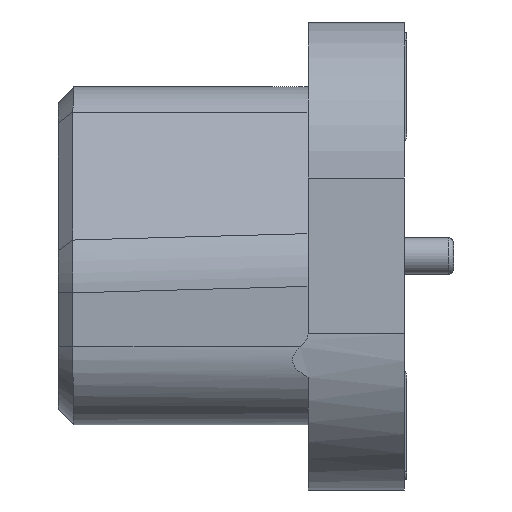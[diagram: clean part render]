
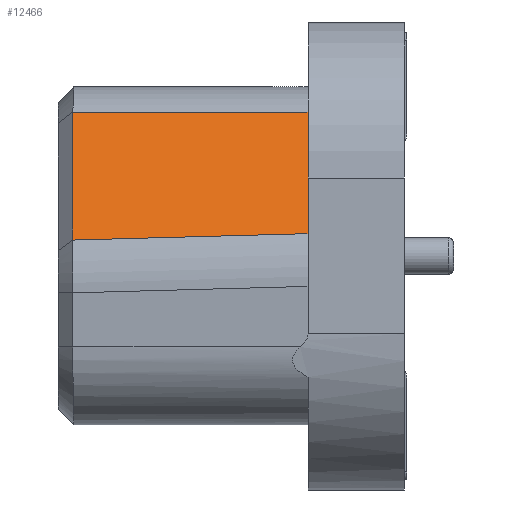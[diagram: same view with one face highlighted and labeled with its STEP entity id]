
A CAD part, left-side view. The second image highlights one B-rep face of the part: STEP entity #12466.
In plain terms, the highlighted planar face has unit normal (-0.733, 0.07, 0.677).
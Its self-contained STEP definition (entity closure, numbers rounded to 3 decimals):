
#220 = CARTESIAN_POINT ( 'NONE',  ( -14.328, 1.318, 0.43 ) ) ;
#1653 = EDGE_CURVE ( 'NONE', #5325, #21781, #1827, .T. ) ;
#1827 = LINE ( 'NONE', #7373, #11499 ) ;
#1864 = EDGE_CURVE ( 'NONE', #21781, #10697, #18223, .T. ) ;
#1996 = CARTESIAN_POINT ( 'NONE',  ( -11.725, 1.318, 3.25 ) ) ;
#2034 = VECTOR ( 'NONE', #18449, 1000. ) ;
#2554 = FACE_OUTER_BOUND ( 'NONE', #22324, .T. ) ;
#3163 = VECTOR ( 'NONE', #10933, 1000. ) ;
#3379 = CARTESIAN_POINT ( 'NONE',  ( -11.743, 5.839, 2.765 ) ) ;
#3517 = AXIS2_PLACEMENT_3D ( 'NONE', #19971, #22003, #22119 ) ;
#5325 = VERTEX_POINT ( 'NONE', #5405 ) ;
#5405 = CARTESIAN_POINT ( 'NONE',  ( -12.173, 1.318, 2.765 ) ) ;
#5998 = DIRECTION ( 'NONE',  ( -0.678, 0., -0.735 ) ) ;
#7373 = CARTESIAN_POINT ( 'NONE',  ( -12.169, 1.36, 2.765 ) ) ;
#8402 = ORIENTED_EDGE ( 'NONE', *, *, #1653, .T. ) ;
#8507 = EDGE_CURVE ( 'NONE', #10697, #15058, #21950, .T. ) ;
#9462 = PLANE ( 'NONE',  #3517 ) ;
#10697 = VERTEX_POINT ( 'NONE', #13312 ) ;
#10933 = DIRECTION ( 'NONE',  ( -0.678, 0., -0.735 ) ) ;
#11499 = VECTOR ( 'NONE', #15853, 1000. ) ;
#11558 = CARTESIAN_POINT ( 'NONE',  ( -14.321, 1.422, 0.427 ) ) ;
#12214 = VECTOR ( 'NONE', #5998, 1000. ) ;
#12466 = ADVANCED_FACE ( 'NONE', ( #2554 ), #9462, .T. ) ;
#12789 = ORIENTED_EDGE ( 'NONE', *, *, #15593, .F. ) ;
#13312 = CARTESIAN_POINT ( 'NONE',  ( -14.012, 5.839, 0.306 ) ) ;
#14099 = LINE ( 'NONE', #1996, #3163 ) ;
#15058 = VERTEX_POINT ( 'NONE', #220 ) ;
#15593 = EDGE_CURVE ( 'NONE', #5325, #15058, #14099, .T. ) ;
#15853 = DIRECTION ( 'NONE',  ( 0.095, 0.996, 0. ) ) ;
#15870 = ORIENTED_EDGE ( 'NONE', *, *, #8507, .T. ) ;
#17592 = ORIENTED_EDGE ( 'NONE', *, *, #1864, .T. ) ;
#18223 = LINE ( 'NONE', #21489, #12214 ) ;
#18449 = DIRECTION ( 'NONE',  ( -0.07, -0.997, 0.027 ) ) ;
#19971 = CARTESIAN_POINT ( 'NONE',  ( -11.725, 1.318, 3.25 ) ) ;
#21489 = CARTESIAN_POINT ( 'NONE',  ( -11.493, 5.839, 3.036 ) ) ;
#21781 = VERTEX_POINT ( 'NONE', #3379 ) ;
#21950 = LINE ( 'NONE', #11558, #2034 ) ;
#22003 = DIRECTION ( 'NONE',  ( -0.733, 0.07, 0.677 ) ) ;
#22119 = DIRECTION ( 'NONE',  ( 0.678, 0., 0.735 ) ) ;
#22324 = EDGE_LOOP ( 'NONE', ( #8402, #17592, #15870, #12789 ) ) ;
